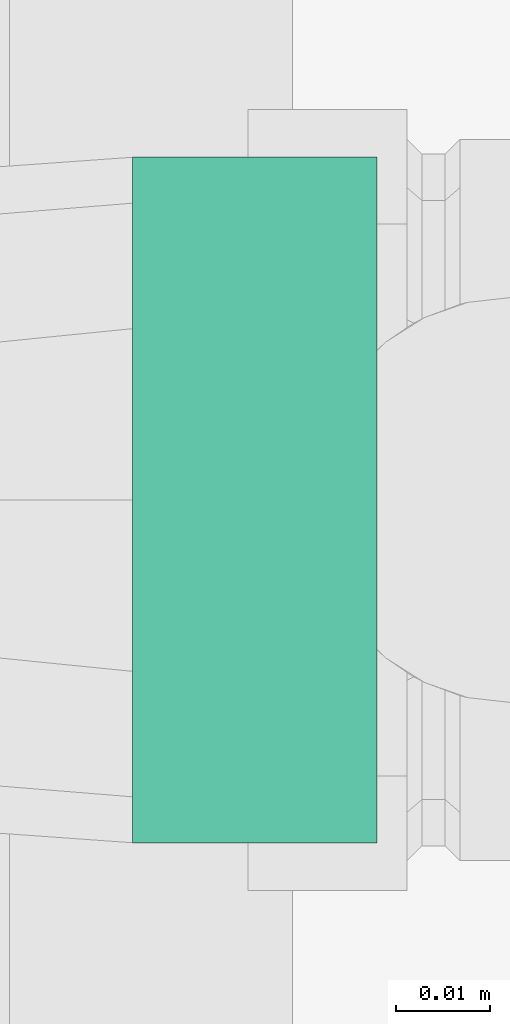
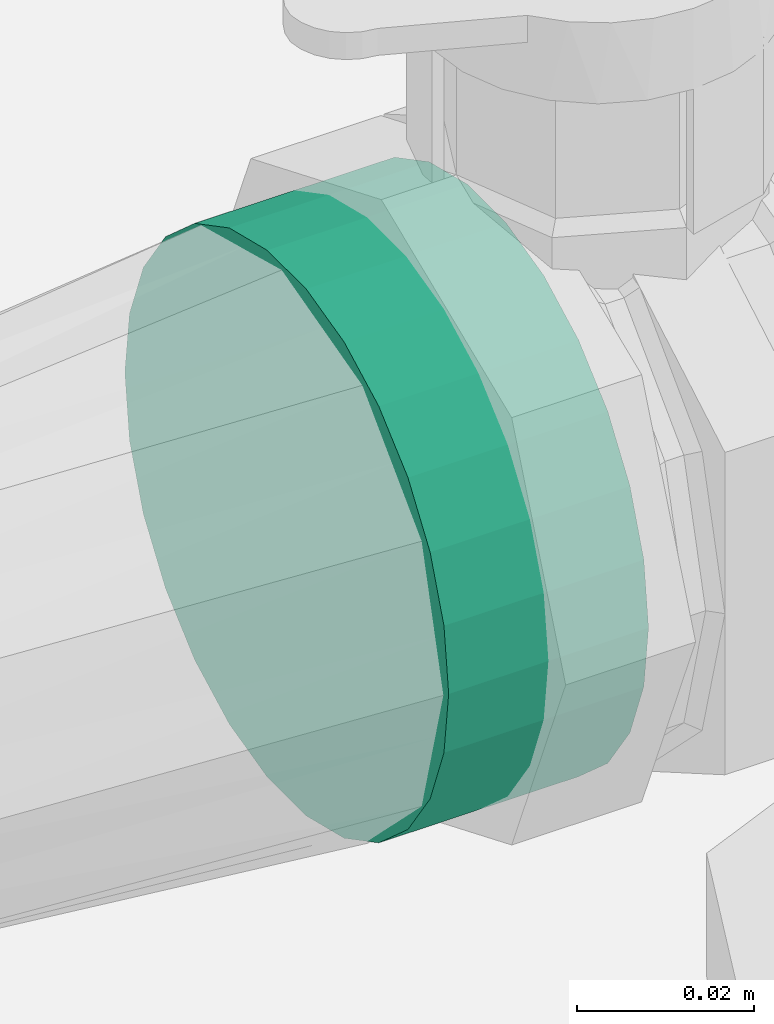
# One storey, part 21 of 43: 1 flow segment.
"""IFC2X3 building model written with IfcOpenShell, lengths in millimetres."""

import ifcopenshell
import ifcopenshell.guid

model = None  # the IFC model being written
_history = None  # IfcOwnerHistory: only IFC2X3 demands one
_inside = {}  # id of a spatial element -> (the spatial element, [elements in it])
_under = {}  # id of a project, library or spatial element -> (it, [spatial elements below it])
_declared = {}  # id of a project -> (the project, [libraries it declares])
_typed = {}  # id of a type object -> (the type object, [elements of that type])
_made_of = {}  # id of a material, layer set ... -> (it, [elements and type objects made of it])


def new_model(schema):
    """Start an empty IFC model of exactly this schema.

    Asked for "IFC4X3", IfcOpenShell would pick the latest addendum, in which some entities
    have other attributes; the version numbers below select the first issue.
    IFC2X3 requires an IfcOwnerHistory on every rooted entity: one is made here for all.
    """
    global model, _history
    if schema == "IFC4X3":
        model = ifcopenshell.file(schema_version=(4, 3, 0, 0))
    else:
        model = ifcopenshell.file(schema=schema)
    _inside.clear()
    _under.clear()
    _declared.clear()
    _typed.clear()
    _made_of.clear()
    _history = None
    if model.schema == "IFC2X3":
        org = make("IfcOrganization", Name="unknown")
        user = make(
            "IfcPersonAndOrganization",
            ThePerson=make("IfcPerson", FamilyName="unknown"),
            TheOrganization=org,
        )
        app = make(
            "IfcApplication",
            ApplicationDeveloper=org,
            Version="unknown",
            ApplicationFullName="unknown",
            ApplicationIdentifier="unknown",
        )
        _history = make(
            "IfcOwnerHistory",
            OwningUser=user,
            OwningApplication=app,
            ChangeAction="ADDED",
            CreationDate=0,
        )
    return model


def make(cls, **values):
    """One entity of the class cls with the attributes given. An attribute that is None is left unset."""
    return model.create_entity(
        cls, **{name: value for name, value in values.items() if value is not None}
    )


def entity(cls, *values):
    """Any entity or typed value of the class cls, its attributes in the order of the schema. None: left unset."""
    e = model.create_entity(cls)
    for i, value in enumerate(values):
        if value is not None:
            e[i] = value
    return e


def rooted(cls, **values):
    """An entity with a GlobalId (a new one), such as an element, a storey or a relation."""
    return make(cls, GlobalId=ifcopenshell.guid.new(), OwnerHistory=_history, **values)


def si_unit(unit_type, name, prefix=None):
    """IfcSIUnit, for example si_unit("LENGTHUNIT", "METRE", prefix="MILLI")."""
    return make("IfcSIUnit", UnitType=unit_type, Prefix=prefix, Name=name)


def converted_unit(unit_type, name, factor, base, dimensions=None, offset=None):
    """IfcConversionBasedUnit, such as the inch: factor (a typed value) times the base unit."""
    return make(
        "IfcConversionBasedUnit"
        if offset is None
        else "IfcConversionBasedUnitWithOffset",
        ConversionOffset=offset,
        Dimensions=None
        if dimensions is None
        else entity("IfcDimensionalExponents", *dimensions),
        UnitType=unit_type,
        Name=name,
        ConversionFactor=make(
            "IfcMeasureWithUnit", ValueComponent=factor, UnitComponent=base
        ),
    )


def derived_unit(unit_type, elements):
    """IfcDerivedUnit: a product of units, each with its exponent."""
    return make(
        "IfcDerivedUnit",
        Elements=[
            make("IfcDerivedUnitElement", Unit=unit, Exponent=power)
            for unit, power in elements
        ],
        UnitType=unit_type,
    )


def assignment(units):
    """IfcUnitAssignment: the units of a project."""
    return None if units is None else make("IfcUnitAssignment", Units=units)


def point(xyz):
    """IfcCartesianPoint."""
    return None if xyz is None else make("IfcCartesianPoint", Coordinates=xyz)


def direction(xyz):
    """IfcDirection."""
    return None if xyz is None else make("IfcDirection", DirectionRatios=xyz)


def frame(location, z_axis=None, x_axis=None):
    """IfcAxis2Placement3D, a coordinate frame: its origin and axes. An axis left out is left unset."""
    return make(
        "IfcAxis2Placement3D",
        Location=point(location),
        Axis=direction(z_axis),
        RefDirection=direction(x_axis),
    )


def frame_2d(location, x_axis=None):
    """IfcAxis2Placement2D, a coordinate frame in the plane: its origin and x axis."""
    return make(
        "IfcAxis2Placement2D", Location=point(location), RefDirection=direction(x_axis)
    )


def origin():
    """The frame at (0, 0, 0) with its axes left unset."""
    return frame((0.0, 0.0, 0.0))


def origin_2d_with_axis():
    """The frame at (0, 0) in the plane with the x axis (1, 0) written out."""
    return frame_2d((0.0, 0.0), x_axis=(1.0, 0.0))


def place(relative_to, where):
    """IfcLocalPlacement: puts the frame where relative to a parent placement (None: the world)."""
    return make(
        "IfcLocalPlacement", PlacementRelTo=relative_to, RelativePlacement=where
    )


def context(
    kind, dimensions, precision=None, world=None, true_north=None, identifier=None
):
    """IfcGeometricRepresentationContext, for example the 3D "Model" context."""
    return make(
        "IfcGeometricRepresentationContext",
        ContextIdentifier=identifier,
        ContextType=kind,
        CoordinateSpaceDimension=dimensions,
        Precision=precision,
        WorldCoordinateSystem=world,
        TrueNorth=true_north,
    )


def subcontext(parent, identifier, kind, view, scale=None):
    """IfcGeometricRepresentationSubContext, for example "Body" below "Model"."""
    return make(
        "IfcGeometricRepresentationSubContext",
        ContextIdentifier=identifier,
        ContextType=kind,
        ParentContext=parent,
        TargetScale=scale,
        TargetView=view,
    )


def project(units=None, contexts=None):
    """IfcProject with its units and contexts."""
    return rooted(
        "IfcProject",
        Name="project",
        RepresentationContexts=contexts,
        UnitsInContext=assignment(units),
    )


def spatial(cls, under=None, at=None, **own):
    """A site, building, storey or space (cls), placed at a placement, below another one or the project."""
    s = rooted(cls, ObjectPlacement=at, **own)
    if under is not None:
        _under.setdefault(under.id(), (under, []))[1].append(s)
    return s


def profile(cls, at=None, kind="AREA", **sizes):
    """A parametric profile (cls). Its sizes go by their IFC names, for example OverallWidth=200.0."""
    return make(cls, ProfileType=kind, Position=at, **sizes)


def circle(**sizes):
    """IfcCircleProfileDef."""
    return profile("IfcCircleProfileDef", **sizes)


def extrude(swept, where, along, depth):
    """IfcExtrudedAreaSolid: the profile swept, set in the frame where, extruded along a direction by depth."""
    return make(
        "IfcExtrudedAreaSolid",
        SweptArea=swept,
        Position=where,
        ExtrudedDirection=direction(along),
        Depth=depth,
    )


def shape(context_of_items, identifier, shape_type, items):
    """IfcShapeRepresentation: the items that make up one representation, for example the "Body"."""
    return make(
        "IfcShapeRepresentation",
        ContextOfItems=context_of_items,
        RepresentationIdentifier=identifier,
        RepresentationType=shape_type,
        Items=items,
    )


def made_of(thing, what):
    """Note that an element or type object is made of a material, layer set ...; save() writes the relation."""
    if what is not None:
        _made_of.setdefault(what.id(), (what, []))[1].append(thing)
    return thing


def type_object(cls, material=None, **own):
    """A type object (cls), such as IfcWallType, which elements share."""
    return made_of(rooted(cls, **own), material)


def element(
    cls,
    number,
    at=None,
    inside=None,
    cuts=None,
    type_object=None,
    material=None,
    context=None,
    identifier="Body",
    shape_type=None,
    held_by="IfcProductDefinitionShape",
    body=None,
    shapes=None,
    **own,
):
    """One element of the class cls, such as IfcWall. Its Tag is "e" and its number.

    at: its placement. inside: the storey or other place that contains it. cuts: it is an
    opening in that element (IfcRelVoidsElement). A single representation is given by context,
    identifier, shape_type and body (its items); several are given by shapes. held_by: the class
    of the entity that holds the representations. save() writes the other relations.
    """
    e = rooted(cls, Tag="e%d" % number, ObjectPlacement=at, **own)
    if body is not None:
        shapes = [shape(context, identifier, shape_type, body)]
    if shapes is not None:
        e.Representation = make(held_by, Representations=shapes)
    if inside is not None:
        _inside.setdefault(inside.id(), (inside, []))[1].append(e)
    if cuts is not None:
        rooted(
            "IfcRelVoidsElement", RelatingBuildingElement=cuts, RelatedOpeningElement=e
        )
    if type_object is not None:
        _typed.setdefault(type_object.id(), (type_object, []))[1].append(e)
    return made_of(e, material)


def aggregate(whole, parts):
    """IfcRelAggregates: a whole, such as a stair, and the parts it consists of."""
    return rooted("IfcRelAggregates", RelatingObject=whole, RelatedObjects=parts)


def save(model, path):
    """Write the relations noted so far, then the file.

    IfcRelAggregates (storeys below a building ...), IfcRelContainedInSpatialStructure (elements
    in a storey), IfcRelDefinesByType, IfcRelAssociatesMaterial and IfcRelDeclares: one each for
    every whole, place, type object, material and project.
    """
    for whole, parts in _under.values():
        aggregate(whole, parts)
    for where, things in _inside.values():
        rooted(
            "IfcRelContainedInSpatialStructure",
            RelatedElements=things,
            RelatingStructure=where,
        )
    for kind, things in _typed.values():
        rooted("IfcRelDefinesByType", RelatedObjects=things, RelatingType=kind)
    for what, things in _made_of.values():
        rooted("IfcRelAssociatesMaterial", RelatedObjects=things, RelatingMaterial=what)
    for by, libraries in _declared.values():
        rooted("IfcRelDeclares", RelatingContext=by, RelatedDefinitions=libraries)
    model.write(path)


model = new_model("IFC2X3")

# Units and contexts
model_context = context("Model", 3, precision=0.01, world=origin(), true_north=direction((6.123031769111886e-17, 1.0)))
body_context = subcontext(model_context, "Body", "Model", "MODEL_VIEW")
ifc_project = project(units=[si_unit("LENGTHUNIT", "METRE", prefix="MILLI"), si_unit("AREAUNIT", "SQUARE_METRE"), si_unit("VOLUMEUNIT", "CUBIC_METRE"), converted_unit("PLANEANGLEUNIT", "DEGREE", entity("IfcRatioMeasure", 0.017453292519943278), si_unit("PLANEANGLEUNIT", "RADIAN"), dimensions=[0, 0, 0, 0, 0, 0, 0]), si_unit("MASSUNIT", "GRAM", prefix="KILO"), derived_unit("MASSDENSITYUNIT", [(si_unit("MASSUNIT", "GRAM", prefix="KILO"), 1), (si_unit("LENGTHUNIT", "METRE"), -3)]), derived_unit("MOMENTOFINERTIAUNIT", [(si_unit("LENGTHUNIT", "METRE"), 4)]), si_unit("TIMEUNIT", "SECOND"), si_unit("FREQUENCYUNIT", "HERTZ"), si_unit("THERMODYNAMICTEMPERATUREUNIT", "DEGREE_CELSIUS"), derived_unit("THERMALTRANSMITTANCEUNIT", [(si_unit("MASSUNIT", "GRAM", prefix="KILO"), 1), (si_unit("THERMODYNAMICTEMPERATUREUNIT", "KELVIN"), -1), (si_unit("TIMEUNIT", "SECOND"), -3)]), derived_unit("VOLUMETRICFLOWRATEUNIT", [(si_unit("LENGTHUNIT", "METRE"), 3), (si_unit("TIMEUNIT", "SECOND"), -1)]), derived_unit("MASSFLOWRATEUNIT", [(si_unit("MASSUNIT", "GRAM", prefix="KILO"), 1), (si_unit("TIMEUNIT", "SECOND"), -1)]), derived_unit("ROTATIONALFREQUENCYUNIT", [(si_unit("TIMEUNIT", "SECOND"), -1)]), si_unit("ELECTRICCURRENTUNIT", "AMPERE"), si_unit("ELECTRICVOLTAGEUNIT", "VOLT"), si_unit("POWERUNIT", "WATT"), si_unit("FORCEUNIT", "NEWTON", prefix="KILO"), si_unit("ILLUMINANCEUNIT", "LUX"), si_unit("LUMINOUSFLUXUNIT", "LUMEN"), si_unit("LUMINOUSINTENSITYUNIT", "CANDELA"), derived_unit("USERDEFINED", [(si_unit("MASSUNIT", "GRAM", prefix="KILO"), -1), (si_unit("LENGTHUNIT", "METRE"), -2), (si_unit("TIMEUNIT", "SECOND"), 3), (si_unit("LUMINOUSFLUXUNIT", "LUMEN"), 1)]), derived_unit("SOUNDPOWERUNIT", [(si_unit("MASSUNIT", "GRAM", prefix="KILO"), 1), (si_unit("LENGTHUNIT", "METRE"), 2), (si_unit("TIMEUNIT", "SECOND"), -3)]), derived_unit("SOUNDPRESSUREUNIT", [(si_unit("MASSUNIT", "GRAM", prefix="KILO"), 1), (si_unit("LENGTHUNIT", "METRE"), -1), (si_unit("TIMEUNIT", "SECOND"), -2)]), derived_unit("LINEARVELOCITYUNIT", [(si_unit("LENGTHUNIT", "METRE"), 1), (si_unit("TIMEUNIT", "SECOND"), -1)]), si_unit("PRESSUREUNIT", "PASCAL"), derived_unit("USERDEFINED", [(si_unit("LENGTHUNIT", "METRE"), -2), (si_unit("MASSUNIT", "GRAM", prefix="KILO"), 1), (si_unit("TIMEUNIT", "SECOND"), -2)]), derived_unit("LINEARFORCEUNIT", [(si_unit("MASSUNIT", "GRAM", prefix="KILO"), 1), (si_unit("LENGTHUNIT", "METRE"), 1), (si_unit("TIMEUNIT", "SECOND"), -2), (si_unit("LENGTHUNIT", "METRE"), -1)]), derived_unit("PLANARFORCEUNIT", [(si_unit("MASSUNIT", "GRAM", prefix="KILO"), 1), (si_unit("LENGTHUNIT", "METRE"), 1), (si_unit("TIMEUNIT", "SECOND"), -2), (si_unit("LENGTHUNIT", "METRE"), -2)])], contexts=[model_context])

# Site, building, storey
site_placement = place(None, origin())
site = spatial("IfcSite", under=ifc_project, at=site_placement, Name="Default", CompositionType="ELEMENT")
building_placement = place(site_placement, origin())
building = spatial("IfcBuilding", under=site, at=building_placement, CompositionType="ELEMENT")
storey_placement = place(building_placement, frame((0.0, 0.0, 270.0)))
storey = spatial("IfcBuildingStorey", under=building, at=storey_placement, Name="Niveau 0", CompositionType="ELEMENT", Elevation=270.0)

# Flow segment
pipe_segment_type = type_object("IfcPipeSegmentType", Name="Canalisation:tube acier", PredefinedType="NOTDEFINED")
flow_segment_placement = place(storey_placement, origin())
element("IfcFlowSegment", 1, at=flow_segment_placement, inside=storey, type_object=pipe_segment_type, Name="Canalisation:tube acier", ObjectType="Canalisation:tube acier", context=body_context, shape_type="SweptSolid", body=[
    extrude(circle(Radius=36.5125, at=origin_2d_with_axis()), frame((-1962.0, -9615.0, 1326.500000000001), z_axis=(1.0, 0.0, 0.0), x_axis=(0.0, -1.0, 0.0)), (0.0, 0.0, 1.0), 26.023604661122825),
])

save(model, "model.ifc")
